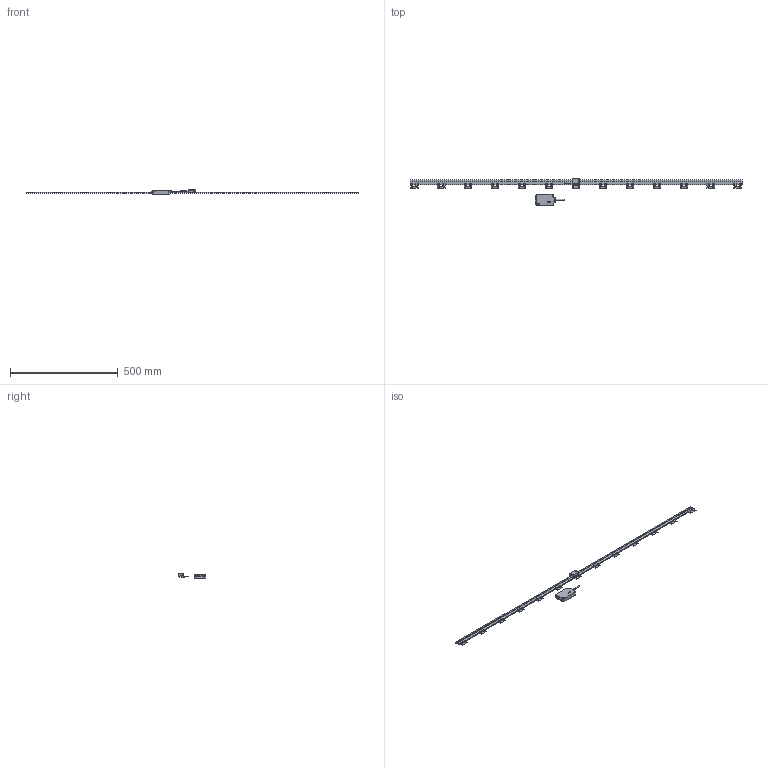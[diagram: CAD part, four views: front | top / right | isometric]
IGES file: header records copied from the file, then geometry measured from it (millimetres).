
Start section: Elysium IGES Interface
Global section: file name: 62H\\Utsu119s\kiyo_cad\data\3D\ST36\HP掲載用_201804\ST36-1500.igs; native system: Creo Elements/Direct Modeling 18.1B  29-Sep-2012; preprocessor: Creo Element/Direct IGES_3D V2.2; author: Unknown; organization: Unknown; date: 20180323.144518; units: millimetre
Bounding box: 1540 x 123 x 19.9 mm (x, y, z)
Volume: 253063 mm3; surface area: 116628.2 mm2
Topology: 3 solids, 5 shells, 745 faces, 2063 edges, 1351 vertices
Faces by surface type: bspline 745
